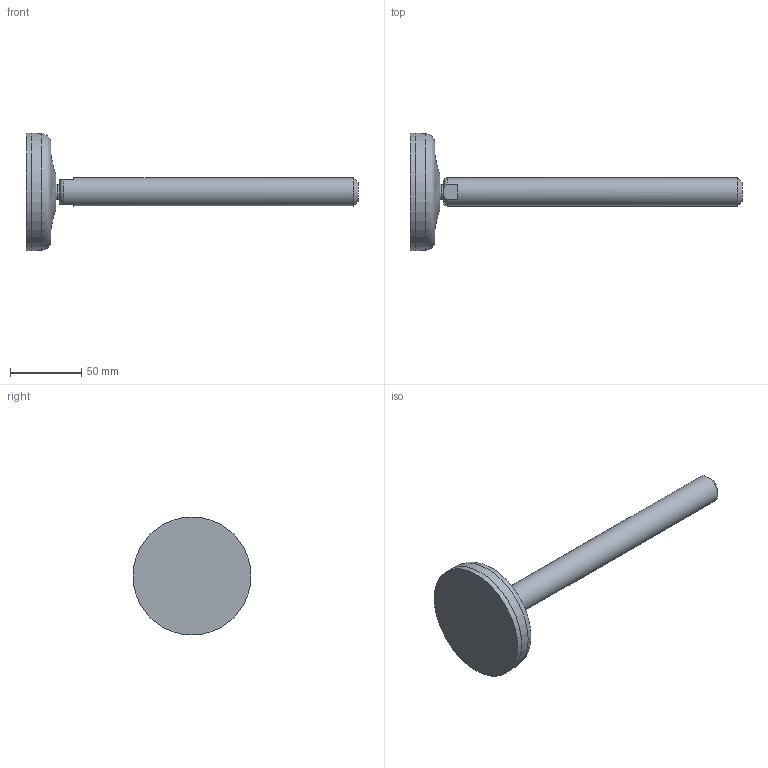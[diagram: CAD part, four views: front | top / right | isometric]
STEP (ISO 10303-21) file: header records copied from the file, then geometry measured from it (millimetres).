
FILE_DESCRIPTION(('STEP AP203'),'2;1');
FILE_NAME('18094.stp','2017-07-12T16:44:10',(''),(''),'2014.1.117','THINKDESIGN','');
FILE_SCHEMA(('CONFIG_CONTROL_DESIGN'));
Length unit declared in the file: millimetre
Bounding box: 233.6 x 83 x 83 mm (x, y, z)
Volume: 165560.4 mm3; surface area: 39384.5 mm2
Topology: 4 solids, 4 shells, 24 faces, 54 edges, 39 vertices
Faces by surface type: plane 13, bspline 8, cylinder 3
Full cylindrical faces by diameter (mm): 10.292 x1, 20 x1, 83 x1
Entity records: 1325 total; most frequent: CARTESIAN_POINT 679, DIRECTION 124, ORIENTED_EDGE 108, AXIS2_PLACEMENT_3D 56, EDGE_CURVE 54, CIRCLE 40, VERTEX_POINT 39, EDGE_LOOP 25
